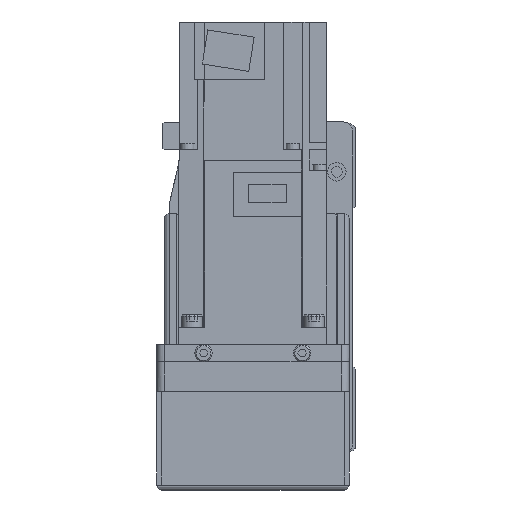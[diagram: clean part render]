
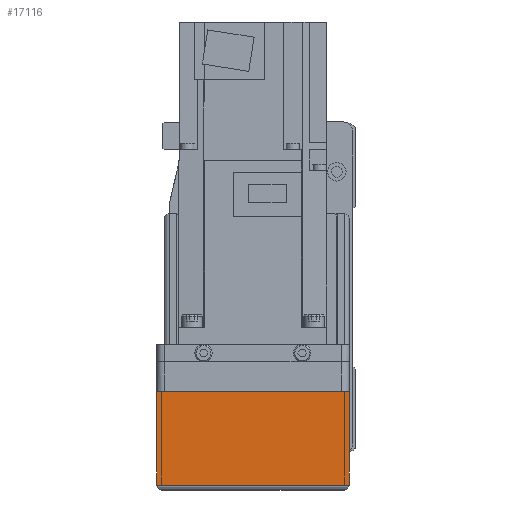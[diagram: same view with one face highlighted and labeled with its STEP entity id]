
A CAD part, left-side view. The second image highlights one B-rep face of the part: STEP entity #17116.
In plain terms, the highlighted planar face has unit normal (-1, 0, 0).
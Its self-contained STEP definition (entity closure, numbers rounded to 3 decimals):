
#2588=ORIENTED_EDGE('',*,*,#6891,.F.);
#2589=ORIENTED_EDGE('',*,*,#6892,.F.);
#2590=ORIENTED_EDGE('',*,*,#6893,.T.);
#2591=ORIENTED_EDGE('',*,*,#6894,.F.);
#6891=EDGE_CURVE('',#9141,#9132,#10906,.T.);
#6892=EDGE_CURVE('',#9158,#9141,#10907,.T.);
#6893=EDGE_CURVE('',#9158,#9159,#10908,.T.);
#6894=EDGE_CURVE('',#9132,#9159,#10909,.T.);
#9132=VERTEX_POINT('',#26314);
#9141=VERTEX_POINT('',#26332);
#9158=VERTEX_POINT('',#26380);
#9159=VERTEX_POINT('',#26382);
#10906=LINE('',#26378,#12489);
#10907=LINE('',#26379,#12490);
#10908=LINE('',#26381,#12491);
#10909=LINE('',#26383,#12492);
#12489=VECTOR('',#21124,1000.);
#12490=VECTOR('',#21125,1000.);
#12491=VECTOR('',#21126,1000.);
#12492=VECTOR('',#21127,1000.);
#13904=EDGE_LOOP('',(#2588,#2589,#2590,#2591));
#15229=FACE_BOUND('',#13904,.T.);
#16395=PLANE('',#18350);
#17116=ADVANCED_FACE('',(#15229),#16395,.F.);
#18350=AXIS2_PLACEMENT_3D('',#26377,#21122,#21123);
#21122=DIRECTION('',(1.,0.,0.));
#21123=DIRECTION('',(0.,0.,-1.));
#21124=DIRECTION('',(0.,-1.,0.));
#21125=DIRECTION('',(0.,0.,1.));
#21126=DIRECTION('',(0.,-1.,0.));
#21127=DIRECTION('',(0.,0.,-1.));
#26314=CARTESIAN_POINT('',(-158.,-39.,-12.1));
#26332=CARTESIAN_POINT('',(-158.,39.,-12.1));
#26377=CARTESIAN_POINT('',(-158.,36.,7.));
#26378=CARTESIAN_POINT('',(-158.,50.,-12.1));
#26379=CARTESIAN_POINT('',(-158.,39.,-50.));
#26380=CARTESIAN_POINT('',(-158.,39.,-50.));
#26381=CARTESIAN_POINT('',(-158.,40.,-50.));
#26382=CARTESIAN_POINT('',(-158.,-39.,-50.));
#26383=CARTESIAN_POINT('',(-158.,-39.,-12.1));
